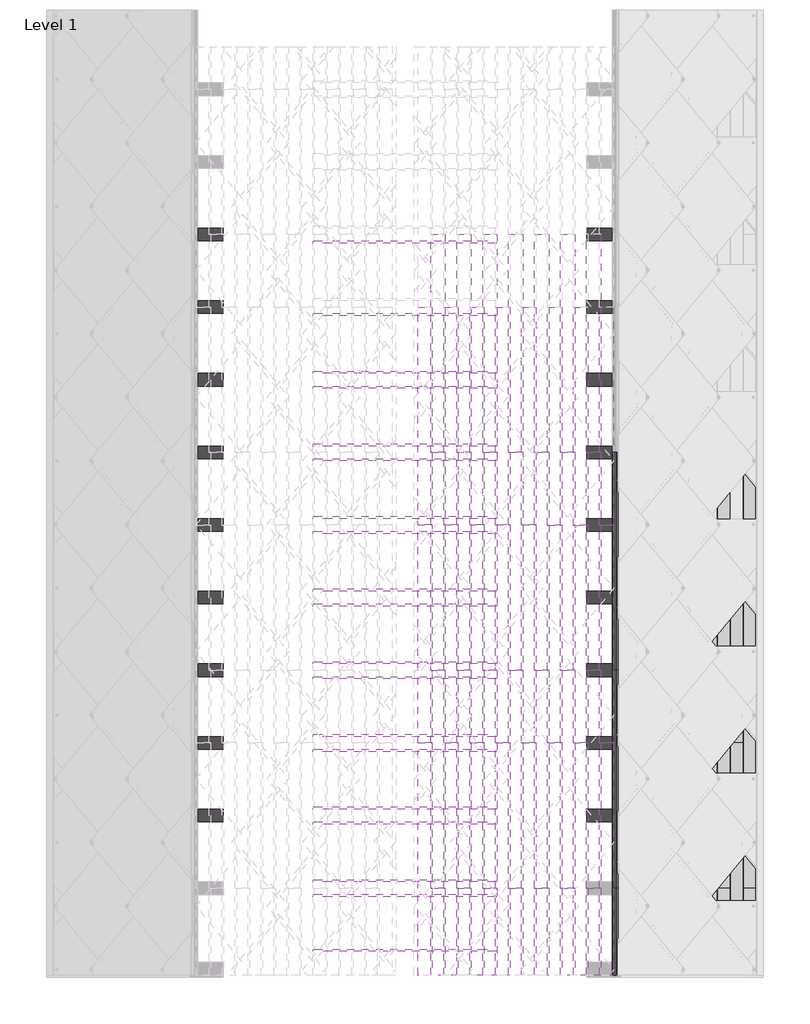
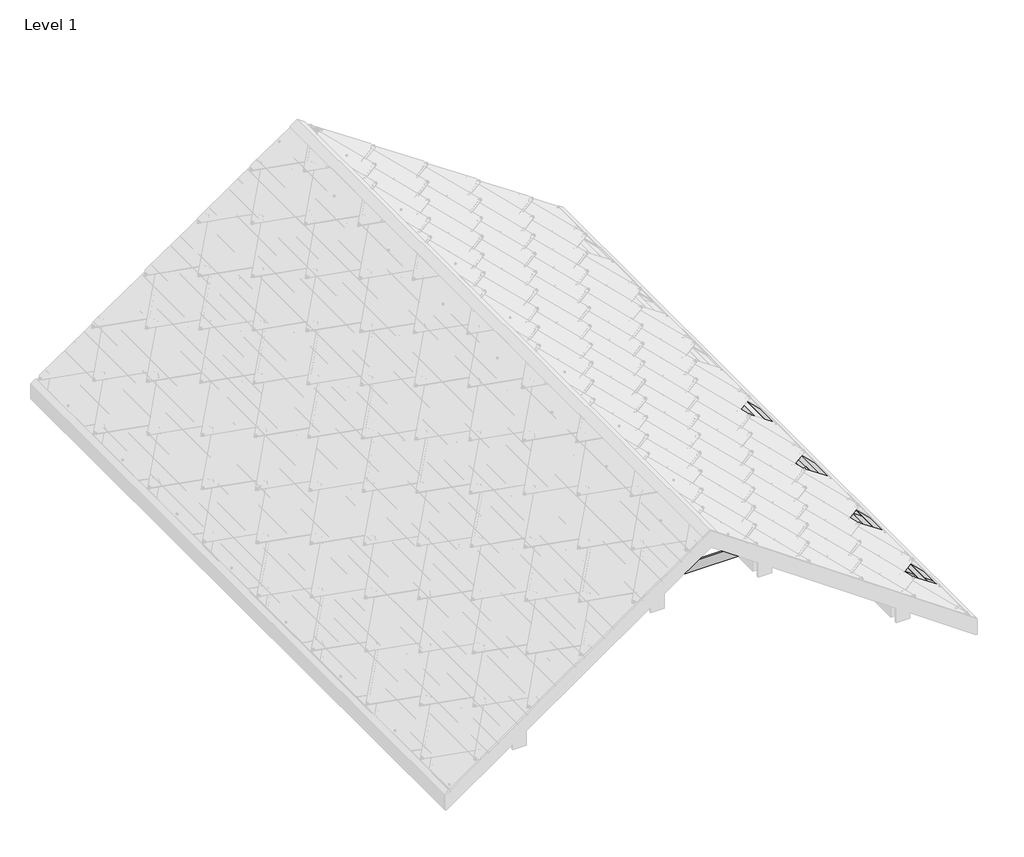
# One storey, part 2 of 6: 110 beams.
"""IFC4 building model written with IfcOpenShell, lengths in millimetres."""

import ifcopenshell
import ifcopenshell.guid

model = None  # the IFC model being written
_history = None  # IfcOwnerHistory: only IFC2X3 demands one
_inside = {}  # id of a spatial element -> (the spatial element, [elements in it])
_under = {}  # id of a project, library or spatial element -> (it, [spatial elements below it])
_declared = {}  # id of a project -> (the project, [libraries it declares])
_typed = {}  # id of a type object -> (the type object, [elements of that type])
_made_of = {}  # id of a material, layer set ... -> (it, [elements and type objects made of it])


def new_model(schema):
    """Start an empty IFC model of exactly this schema.

    Asked for "IFC4X3", IfcOpenShell would pick the latest addendum, in which some entities
    have other attributes; the version numbers below select the first issue.
    IFC2X3 requires an IfcOwnerHistory on every rooted entity: one is made here for all.
    """
    global model, _history
    if schema == "IFC4X3":
        model = ifcopenshell.file(schema_version=(4, 3, 0, 0))
    else:
        model = ifcopenshell.file(schema=schema)
    _inside.clear()
    _under.clear()
    _declared.clear()
    _typed.clear()
    _made_of.clear()
    _history = None
    if model.schema == "IFC2X3":
        org = make("IfcOrganization", Name="unknown")
        user = make(
            "IfcPersonAndOrganization",
            ThePerson=make("IfcPerson", FamilyName="unknown"),
            TheOrganization=org,
        )
        app = make(
            "IfcApplication",
            ApplicationDeveloper=org,
            Version="unknown",
            ApplicationFullName="unknown",
            ApplicationIdentifier="unknown",
        )
        _history = make(
            "IfcOwnerHistory",
            OwningUser=user,
            OwningApplication=app,
            ChangeAction="ADDED",
            CreationDate=0,
        )
    return model


def make(cls, **values):
    """One entity of the class cls with the attributes given. An attribute that is None is left unset."""
    return model.create_entity(
        cls, **{name: value for name, value in values.items() if value is not None}
    )


def rooted(cls, **values):
    """An entity with a GlobalId (a new one), such as an element, a storey or a relation."""
    return make(cls, GlobalId=ifcopenshell.guid.new(), OwnerHistory=_history, **values)


def si_unit(unit_type, name, prefix=None):
    """IfcSIUnit, for example si_unit("LENGTHUNIT", "METRE", prefix="MILLI")."""
    return make("IfcSIUnit", UnitType=unit_type, Prefix=prefix, Name=name)


def assignment(units):
    """IfcUnitAssignment: the units of a project."""
    return None if units is None else make("IfcUnitAssignment", Units=units)


def point(xyz):
    """IfcCartesianPoint."""
    return None if xyz is None else make("IfcCartesianPoint", Coordinates=xyz)


def direction(xyz):
    """IfcDirection."""
    return None if xyz is None else make("IfcDirection", DirectionRatios=xyz)


def frame(location, z_axis=None, x_axis=None):
    """IfcAxis2Placement3D, a coordinate frame: its origin and axes. An axis left out is left unset."""
    return make(
        "IfcAxis2Placement3D",
        Location=point(location),
        Axis=direction(z_axis),
        RefDirection=direction(x_axis),
    )


def origin():
    """The frame at (0, 0, 0) with its axes left unset."""
    return frame((0.0, 0.0, 0.0))


def place(relative_to, where):
    """IfcLocalPlacement: puts the frame where relative to a parent placement (None: the world)."""
    return make(
        "IfcLocalPlacement", PlacementRelTo=relative_to, RelativePlacement=where
    )


def context(
    kind, dimensions, precision=None, world=None, true_north=None, identifier=None
):
    """IfcGeometricRepresentationContext, for example the 3D "Model" context."""
    return make(
        "IfcGeometricRepresentationContext",
        ContextIdentifier=identifier,
        ContextType=kind,
        CoordinateSpaceDimension=dimensions,
        Precision=precision,
        WorldCoordinateSystem=world,
        TrueNorth=true_north,
    )


def project(units=None, contexts=None):
    """IfcProject with its units and contexts."""
    return rooted(
        "IfcProject",
        Name="project",
        RepresentationContexts=contexts,
        UnitsInContext=assignment(units),
    )


def spatial(cls, under=None, at=None, **own):
    """A site, building, storey or space (cls), placed at a placement, below another one or the project."""
    s = rooted(cls, ObjectPlacement=at, **own)
    if under is not None:
        _under.setdefault(under.id(), (under, []))[1].append(s)
    return s


def polyline(points):
    """IfcPolyline through the points."""
    return make("IfcPolyline", Points=[point(p) for p in points])


def outline(outer, holes=None, kind="AREA"):
    """IfcArbitraryClosedProfileDef: a profile drawn as a closed curve; with holes, ...WithVoids."""
    if holes is None:
        return make("IfcArbitraryClosedProfileDef", ProfileType=kind, OuterCurve=outer)
    return make(
        "IfcArbitraryProfileDefWithVoids",
        ProfileType=kind,
        OuterCurve=outer,
        InnerCurves=holes,
    )


def extrude(swept, where, along, depth):
    """IfcExtrudedAreaSolid: the profile swept, set in the frame where, extruded along a direction by depth."""
    return make(
        "IfcExtrudedAreaSolid",
        SweptArea=swept,
        Position=where,
        ExtrudedDirection=direction(along),
        Depth=depth,
    )


def shape(context_of_items, identifier, shape_type, items):
    """IfcShapeRepresentation: the items that make up one representation, for example the "Body"."""
    return make(
        "IfcShapeRepresentation",
        ContextOfItems=context_of_items,
        RepresentationIdentifier=identifier,
        RepresentationType=shape_type,
        Items=items,
    )


def source(mapping_origin, context_of_items, identifier, shape_type, items):
    """IfcRepresentationMap: a shape defined once, which mapped items show again and again."""
    return make(
        "IfcRepresentationMap",
        MappingOrigin=mapping_origin,
        MappedRepresentation=shape(context_of_items, identifier, shape_type, items),
    )


def transform(
    local_origin,
    x_axis=None,
    y_axis=None,
    z_axis=None,
    scale=None,
    scale2=None,
    scale3=None,
    uniform=True,
):
    """IfcCartesianTransformationOperator3D, or its non-uniform kind. x_axis, y_axis, z_axis: its Axis1, 2, 3."""
    if uniform:
        return make(
            "IfcCartesianTransformationOperator3D",
            Axis1=direction(x_axis),
            Axis2=direction(y_axis),
            LocalOrigin=point(local_origin),
            Scale=scale,
            Axis3=direction(z_axis),
        )
    return make(
        "IfcCartesianTransformationOperator3DnonUniform",
        Axis1=direction(x_axis),
        Axis2=direction(y_axis),
        LocalOrigin=point(local_origin),
        Scale=scale,
        Axis3=direction(z_axis),
        Scale2=scale2,
        Scale3=scale3,
    )


def mapped(mapping_source, mapping_target):
    """IfcMappedItem: shows the shape of a source again, moved by a transform."""
    return make(
        "IfcMappedItem", MappingSource=mapping_source, MappingTarget=mapping_target
    )


def made_of(thing, what):
    """Note that an element or type object is made of a material, layer set ...; save() writes the relation."""
    if what is not None:
        _made_of.setdefault(what.id(), (what, []))[1].append(thing)
    return thing


def element(
    cls,
    number,
    at=None,
    inside=None,
    cuts=None,
    type_object=None,
    material=None,
    context=None,
    identifier="Body",
    shape_type=None,
    held_by="IfcProductDefinitionShape",
    body=None,
    shapes=None,
    **own,
):
    """One element of the class cls, such as IfcWall. Its Tag is "e" and its number.

    at: its placement. inside: the storey or other place that contains it. cuts: it is an
    opening in that element (IfcRelVoidsElement). A single representation is given by context,
    identifier, shape_type and body (its items); several are given by shapes. held_by: the class
    of the entity that holds the representations. save() writes the other relations.
    """
    e = rooted(cls, Tag="e%d" % number, ObjectPlacement=at, **own)
    if body is not None:
        shapes = [shape(context, identifier, shape_type, body)]
    if shapes is not None:
        e.Representation = make(held_by, Representations=shapes)
    if inside is not None:
        _inside.setdefault(inside.id(), (inside, []))[1].append(e)
    if cuts is not None:
        rooted(
            "IfcRelVoidsElement", RelatingBuildingElement=cuts, RelatedOpeningElement=e
        )
    if type_object is not None:
        _typed.setdefault(type_object.id(), (type_object, []))[1].append(e)
    return made_of(e, material)


def aggregate(whole, parts):
    """IfcRelAggregates: a whole, such as a stair, and the parts it consists of."""
    return rooted("IfcRelAggregates", RelatingObject=whole, RelatedObjects=parts)


def save(model, path):
    """Write the relations noted so far, then the file.

    IfcRelAggregates (storeys below a building ...), IfcRelContainedInSpatialStructure (elements
    in a storey), IfcRelDefinesByType, IfcRelAssociatesMaterial and IfcRelDeclares: one each for
    every whole, place, type object, material and project.
    """
    for whole, parts in _under.values():
        aggregate(whole, parts)
    for where, things in _inside.values():
        rooted(
            "IfcRelContainedInSpatialStructure",
            RelatedElements=things,
            RelatingStructure=where,
        )
    for kind, things in _typed.values():
        rooted("IfcRelDefinesByType", RelatedObjects=things, RelatingType=kind)
    for what, things in _made_of.values():
        rooted("IfcRelAssociatesMaterial", RelatedObjects=things, RelatingMaterial=what)
    for by, libraries in _declared.values():
        rooted("IfcRelDeclares", RelatingContext=by, RelatedDefinitions=libraries)
    model.write(path)


def structural_framing_1_structural_framing_1_4f4e03de(model_context):
    return source(origin(), model_context, "Body", "SweptSolid", [
        extrude(outline(polyline([(2800.0, 1206.7789073), (51.1319528, -2719.0115151), (-144.1919814, -2719.0115151), (542.0114061, -1739.0115151), (656.0155568, -1739.0115151), (656.0155568, -1576.1967145), (1975.9524969, 308.8685956), (2089.9566477, 308.8685956), (2089.9566477, 471.6833963), (2604.6760658, 1206.7789073), (2089.9566477, 1941.8744183), (2089.9566477, 2104.6892189), (1975.9524969, 2104.6892189), (656.0155568, 3989.754529), (656.0155568, 4152.5693297), (542.0114061, 4152.5693297), (-144.1919814, 5132.5693297), (51.1319528, 5132.5693297), (2800.0, 1206.7789073)])), frame((0.0, 3785.5508021, 0.0), z_axis=(0.0, 1.0, 0.0), x_axis=(0.0, 0.0, 1.0)), (0.0, 0.0, 1.0), 140.0),
    ])


def structural_framing_161_structural_framing_15_e03e88da(model_context):
    return source(origin(), model_context, "Body", "SweptSolid", [
        extrude(outline(polyline([(0.0, -174.3446795), (0.0, 0.0), (2400.0, 0.0), (2400.0, -174.3446795), (0.0, -174.3446795)])), frame((1349.5937079, 3995.5508021, 2700.0), z_axis=(0.5735764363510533, 0.0, 0.8191520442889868), x_axis=(0.0, -1.0, 0.0)), (0.0, 0.0, 1.0), 25.0),
    ])


def structural_framing_163_structural_framing_15_fd44f6a2(model_context):
    return source(origin(), model_context, "Body", "SweptSolid", [
        extrude(outline(polyline([(0.0, -174.3446795), (0.0, 0.0), (2558.4556079, 0.0), (2558.4556079, -174.3446795), (0.0, -174.3446795)])), frame((1349.5937079, 3995.5508021, 2700.0), z_axis=(0.5735764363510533, 0.0, 0.8191520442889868), x_axis=(0.0, -1.0, 0.0)), (0.0, 0.0, 1.0), 25.0),
    ])


def structural_framing_156_structural_framing_15_8572bb24(model_context):
    return source(origin(), model_context, "Body", "SweptSolid", [
        extrude(outline(polyline([(0.0, -174.3446795), (0.0, 0.0), (2400.0, 0.0), (2400.0, -174.3446795), (0.0, -174.3446795)])), frame((1349.5937079, 3925.5508021, 2700.0), z_axis=(0.5735764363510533, 0.0, 0.8191520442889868), x_axis=(0.0, -1.0, 0.0)), (0.0, 0.0, 1.0), 25.0),
    ])


def structural_framing_159_structural_framing_15_e730e61d(model_context):
    return source(origin(), model_context, "Body", "SweptSolid", [
        extrude(outline(polyline([(0.0, -174.3446795), (0.0, 0.0), (958.4556079, 0.0), (958.4556079, -174.3446795), (0.0, -174.3446795)])), frame((1349.5937079, 3925.5508021, 2700.0), z_axis=(0.5735764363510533, 0.0, 0.8191520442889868), x_axis=(0.0, -1.0, 0.0)), (0.0, 0.0, 1.0), 25.0),
    ])


def structural_framing_296_structural_framing_296_04115515(model_context):
    return source(origin(), model_context, "Body", "SweptSolid", [
        extrude(outline(polyline([(2089.9566477, 2220.8259056), (2239.9566477, 2006.6037045), (2239.9566477, 406.95411), (2089.9566477, 192.731909), (2089.9566477, 2220.8259056)])), frame((0.0, 3760.5508021, 0.0), z_axis=(0.0, 1.0, 0.0), x_axis=(0.0, 0.0, 1.0)), (0.0, 0.0, 1.0), 25.0),
    ])


def structural_framing_298_structural_framing_296_1c13a3da(model_context):
    return source(origin(), model_context, "Body", "SweptSolid", [
        extrude(outline(polyline([(2089.9566477, 2220.8259056), (2239.9566477, 2006.6037045), (2239.9566477, 406.95411), (2089.9566477, 192.731909), (2089.9566477, 2220.8259056)])), frame((0.0, 2325.5508021, 0.0), z_axis=(0.0, 1.0, 0.0), x_axis=(0.0, 0.0, 1.0)), (0.0, 0.0, 1.0), 25.0),
    ])


model = new_model("IFC4")

# Units and contexts
model_context = context("Model", 3, world=origin())
ifc_project = project(units=[si_unit("LENGTHUNIT", "METRE", prefix="MILLI")], contexts=[model_context])

# Site, building, storey
site = spatial("IfcSite", under=ifc_project)
building = spatial("IfcBuilding", under=site)
storey = spatial("IfcBuildingStorey", under=building, Name="Level 1", Elevation=0.0)

# Beams
placement = place(None, origin())
structural_framing_1_structural_framing_1_shape = structural_framing_1_structural_framing_1_4f4e03de(model_context)
element("IfcBeam", 1, ObjectType="Structural Framing 10 : Structural Framing 1", at=placement, inside=storey, context=model_context, shape_type="MappedRepresentation", body=[
    mapped(structural_framing_1_structural_framing_1_shape, transform((0.0, -7200.0, 0.0), x_axis=(1.0, 0.0, 0.0), y_axis=(0.0, 1.0, 0.0), z_axis=(0.0, 0.0, 1.0))),
])
element("IfcBeam", 2, ObjectType="Structural Framing 11 : Structural Framing 1", at=placement, inside=storey, context=model_context, shape_type="MappedRepresentation", body=[
    mapped(structural_framing_1_structural_framing_1_shape, transform((0.0, -8000.0, 0.0), x_axis=(1.0, 0.0, 0.0), y_axis=(0.0, 1.0, 0.0), z_axis=(0.0, 0.0, 1.0))),
])
element("IfcBeam", 3, ObjectType="Structural Framing 12 : Structural Framing 1", at=placement, inside=storey, context=model_context, shape_type="MappedRepresentation", body=[
    mapped(structural_framing_1_structural_framing_1_shape, transform((0.0, -8800.0, 0.0), x_axis=(1.0, 0.0, 0.0), y_axis=(0.0, 1.0, 0.0), z_axis=(0.0, 0.0, 1.0))),
])
structural_framing_161_structural_framing_15_shape = structural_framing_161_structural_framing_15_e03e88da(model_context)
element("IfcBeam", 4, ObjectType="Structural Framing 161 : Structural Framing 15", at=placement, inside=storey, context=model_context, shape_type="MappedRepresentation", body=[
    mapped(structural_framing_161_structural_framing_15_shape, transform((142.8148007, -3340.0, -100.0), x_axis=(1.0, 0.0, 0.0), y_axis=(0.0, 1.0, 0.0), z_axis=(0.0, 0.0, 1.0))),
])
element("IfcBeam", 5, ObjectType="Structural Framing 162 : Structural Framing 15", at=placement, inside=storey, context=model_context, shape_type="MappedRepresentation", body=[
    mapped(structural_framing_161_structural_framing_15_shape, transform((142.8148007, -5740.0, -100.0), x_axis=(1.0, 0.0, 0.0), y_axis=(0.0, 1.0, 0.0), z_axis=(0.0, 0.0, 1.0))),
])
structural_framing_163_structural_framing_15_shape = structural_framing_163_structural_framing_15_fd44f6a2(model_context)
element("IfcBeam", 6, ObjectType="Structural Framing 163 : Structural Framing 15", at=placement, inside=storey, context=model_context, shape_type="MappedRepresentation", body=[
    mapped(structural_framing_163_structural_framing_15_shape, transform((142.8148007, -8140.0, -100.0), x_axis=(1.0, 0.0, 0.0), y_axis=(0.0, 1.0, 0.0), z_axis=(0.0, 0.0, 1.0))),
])
structural_framing_156_structural_framing_15_shape = structural_framing_156_structural_framing_15_8572bb24(model_context)
element("IfcBeam", 7, ObjectType="Structural Framing 166 : Structural Framing 15", at=placement, inside=storey, context=model_context, shape_type="MappedRepresentation", body=[
    mapped(structural_framing_156_structural_framing_15_shape, transform((285.6296013, -2470.0, -200.0), x_axis=(1.0, 0.0, 0.0), y_axis=(0.0, 1.0, 0.0), z_axis=(0.0, 0.0, 1.0))),
])
element("IfcBeam", 8, ObjectType="Structural Framing 167 : Structural Framing 15", at=placement, inside=storey, context=model_context, shape_type="MappedRepresentation", body=[
    mapped(structural_framing_156_structural_framing_15_shape, transform((285.6296013, -4870.0, -200.0), x_axis=(1.0, 0.0, 0.0), y_axis=(0.0, 1.0, 0.0), z_axis=(0.0, 0.0, 1.0))),
])
element("IfcBeam", 9, ObjectType="Structural Framing 168 : Structural Framing 15", at=placement, inside=storey, context=model_context, shape_type="MappedRepresentation", body=[
    mapped(structural_framing_156_structural_framing_15_shape, transform((285.6296013, -7270.0, -200.0), x_axis=(1.0, 0.0, 0.0), y_axis=(0.0, 1.0, 0.0), z_axis=(0.0, 0.0, 1.0))),
])
structural_framing_159_structural_framing_15_shape = structural_framing_159_structural_framing_15_e730e61d(model_context)
element("IfcBeam", 10, ObjectType="Structural Framing 169 : Structural Framing 15", at=placement, inside=storey, context=model_context, shape_type="MappedRepresentation", body=[
    mapped(structural_framing_159_structural_framing_15_shape, transform((285.6296013, -9670.0, -200.0), x_axis=(1.0, 0.0, 0.0), y_axis=(0.0, 1.0, 0.0), z_axis=(0.0, 0.0, 1.0))),
])
element("IfcBeam", 11, ObjectType="Structural Framing 171 : Structural Framing 15", at=placement, inside=storey, context=model_context, shape_type="MappedRepresentation", body=[
    mapped(structural_framing_161_structural_framing_15_shape, transform((428.444402, -3340.0, -300.0), x_axis=(1.0, 0.0, 0.0), y_axis=(0.0, 1.0, 0.0), z_axis=(0.0, 0.0, 1.0))),
])
element("IfcBeam", 12, ObjectType="Structural Framing 172 : Structural Framing 15", at=placement, inside=storey, context=model_context, shape_type="MappedRepresentation", body=[
    mapped(structural_framing_161_structural_framing_15_shape, transform((428.444402, -5740.0, -300.0), x_axis=(1.0, 0.0, 0.0), y_axis=(0.0, 1.0, 0.0), z_axis=(0.0, 0.0, 1.0))),
])
element("IfcBeam", 13, ObjectType="Structural Framing 173 : Structural Framing 15", at=placement, inside=storey, context=model_context, shape_type="MappedRepresentation", body=[
    mapped(structural_framing_163_structural_framing_15_shape, transform((428.444402, -8140.0, -300.0), x_axis=(1.0, 0.0, 0.0), y_axis=(0.0, 1.0, 0.0), z_axis=(0.0, 0.0, 1.0))),
])
element("IfcBeam", 14, ObjectType="Structural Framing 176 : Structural Framing 15", at=placement, inside=storey, context=model_context, shape_type="MappedRepresentation", body=[
    mapped(structural_framing_156_structural_framing_15_shape, transform((571.2592027, -2470.0, -400.0), x_axis=(1.0, 0.0, 0.0), y_axis=(0.0, 1.0, 0.0), z_axis=(0.0, 0.0, 1.0))),
])
element("IfcBeam", 15, ObjectType="Structural Framing 177 : Structural Framing 15", at=placement, inside=storey, context=model_context, shape_type="MappedRepresentation", body=[
    mapped(structural_framing_156_structural_framing_15_shape, transform((571.2592027, -4870.0, -400.0), x_axis=(1.0, 0.0, 0.0), y_axis=(0.0, 1.0, 0.0), z_axis=(0.0, 0.0, 1.0))),
])
element("IfcBeam", 16, ObjectType="Structural Framing 178 : Structural Framing 15", at=placement, inside=storey, context=model_context, shape_type="MappedRepresentation", body=[
    mapped(structural_framing_156_structural_framing_15_shape, transform((571.2592027, -7270.0, -400.0), x_axis=(1.0, 0.0, 0.0), y_axis=(0.0, 1.0, 0.0), z_axis=(0.0, 0.0, 1.0))),
])
element("IfcBeam", 17, ObjectType="Structural Framing 179 : Structural Framing 15", at=placement, inside=storey, context=model_context, shape_type="MappedRepresentation", body=[
    mapped(structural_framing_159_structural_framing_15_shape, transform((571.2592027, -9670.0, -400.0), x_axis=(1.0, 0.0, 0.0), y_axis=(0.0, 1.0, 0.0), z_axis=(0.0, 0.0, 1.0))),
])
element("IfcBeam", 18, ObjectType="Structural Framing 181 : Structural Framing 15", at=placement, inside=storey, context=model_context, shape_type="MappedRepresentation", body=[
    mapped(structural_framing_161_structural_framing_15_shape, transform((714.0740034, -3340.0, -500.0), x_axis=(1.0, 0.0, 0.0), y_axis=(0.0, 1.0, 0.0), z_axis=(0.0, 0.0, 1.0))),
])
element("IfcBeam", 19, ObjectType="Structural Framing 182 : Structural Framing 15", at=placement, inside=storey, context=model_context, shape_type="MappedRepresentation", body=[
    mapped(structural_framing_161_structural_framing_15_shape, transform((714.0740034, -5740.0, -500.0), x_axis=(1.0, 0.0, 0.0), y_axis=(0.0, 1.0, 0.0), z_axis=(0.0, 0.0, 1.0))),
])
element("IfcBeam", 20, ObjectType="Structural Framing 183 : Structural Framing 15", at=placement, inside=storey, context=model_context, shape_type="MappedRepresentation", body=[
    mapped(structural_framing_163_structural_framing_15_shape, transform((714.0740034, -8140.0, -500.0), x_axis=(1.0, 0.0, 0.0), y_axis=(0.0, 1.0, 0.0), z_axis=(0.0, 0.0, 1.0))),
])
element("IfcBeam", 21, ObjectType="Structural Framing 186 : Structural Framing 15", at=placement, inside=storey, context=model_context, shape_type="MappedRepresentation", body=[
    mapped(structural_framing_156_structural_framing_15_shape, transform((856.888804, -2470.0, -600.0), x_axis=(1.0, 0.0, 0.0), y_axis=(0.0, 1.0, 0.0), z_axis=(0.0, 0.0, 1.0))),
])
element("IfcBeam", 22, ObjectType="Structural Framing 187 : Structural Framing 15", at=placement, inside=storey, context=model_context, shape_type="MappedRepresentation", body=[
    mapped(structural_framing_156_structural_framing_15_shape, transform((856.888804, -4870.0, -600.0), x_axis=(1.0, 0.0, 0.0), y_axis=(0.0, 1.0, 0.0), z_axis=(0.0, 0.0, 1.0))),
])
element("IfcBeam", 23, ObjectType="Structural Framing 188 : Structural Framing 15", at=placement, inside=storey, context=model_context, shape_type="MappedRepresentation", body=[
    mapped(structural_framing_156_structural_framing_15_shape, transform((856.888804, -7270.0, -600.0), x_axis=(1.0, 0.0, 0.0), y_axis=(0.0, 1.0, 0.0), z_axis=(0.0, 0.0, 1.0))),
])
element("IfcBeam", 24, ObjectType="Structural Framing 189 : Structural Framing 15", at=placement, inside=storey, context=model_context, shape_type="MappedRepresentation", body=[
    mapped(structural_framing_159_structural_framing_15_shape, transform((856.888804, -9670.0, -600.0), x_axis=(1.0, 0.0, 0.0), y_axis=(0.0, 1.0, 0.0), z_axis=(0.0, 0.0, 1.0))),
])
element("IfcBeam", 25, ObjectType="Structural Framing 191 : Structural Framing 15", at=placement, inside=storey, context=model_context, shape_type="MappedRepresentation", body=[
    mapped(structural_framing_161_structural_framing_15_shape, transform((999.7036047, -3340.0, -700.0), x_axis=(1.0, 0.0, 0.0), y_axis=(0.0, 1.0, 0.0), z_axis=(0.0, 0.0, 1.0))),
])
element("IfcBeam", 26, ObjectType="Structural Framing 192 : Structural Framing 15", at=placement, inside=storey, context=model_context, shape_type="MappedRepresentation", body=[
    mapped(structural_framing_161_structural_framing_15_shape, transform((999.7036047, -5740.0, -700.0), x_axis=(1.0, 0.0, 0.0), y_axis=(0.0, 1.0, 0.0), z_axis=(0.0, 0.0, 1.0))),
])
element("IfcBeam", 27, ObjectType="Structural Framing 193 : Structural Framing 15", at=placement, inside=storey, context=model_context, shape_type="MappedRepresentation", body=[
    mapped(structural_framing_163_structural_framing_15_shape, transform((999.7036047, -8140.0, -700.0), x_axis=(1.0, 0.0, 0.0), y_axis=(0.0, 1.0, 0.0), z_axis=(0.0, 0.0, 1.0))),
])
element("IfcBeam", 28, ObjectType="Structural Framing 196 : Structural Framing 15", at=placement, inside=storey, context=model_context, shape_type="MappedRepresentation", body=[
    mapped(structural_framing_156_structural_framing_15_shape, transform((1142.5184054, -2470.0, -800.0), x_axis=(1.0, 0.0, 0.0), y_axis=(0.0, 1.0, 0.0), z_axis=(0.0, 0.0, 1.0))),
])
element("IfcBeam", 29, ObjectType="Structural Framing 197 : Structural Framing 15", at=placement, inside=storey, context=model_context, shape_type="MappedRepresentation", body=[
    mapped(structural_framing_156_structural_framing_15_shape, transform((1142.5184054, -4870.0, -800.0), x_axis=(1.0, 0.0, 0.0), y_axis=(0.0, 1.0, 0.0), z_axis=(0.0, 0.0, 1.0))),
])
element("IfcBeam", 30, ObjectType="Structural Framing 198 : Structural Framing 15", at=placement, inside=storey, context=model_context, shape_type="MappedRepresentation", body=[
    mapped(structural_framing_156_structural_framing_15_shape, transform((1142.5184054, -7270.0, -800.0), x_axis=(1.0, 0.0, 0.0), y_axis=(0.0, 1.0, 0.0), z_axis=(0.0, 0.0, 1.0))),
])
element("IfcBeam", 31, ObjectType="Structural Framing 199 : Structural Framing 15", at=placement, inside=storey, context=model_context, shape_type="MappedRepresentation", body=[
    mapped(structural_framing_159_structural_framing_15_shape, transform((1142.5184054, -9670.0, -800.0), x_axis=(1.0, 0.0, 0.0), y_axis=(0.0, 1.0, 0.0), z_axis=(0.0, 0.0, 1.0))),
])
element("IfcBeam", 32, ObjectType="Structural Framing 201 : Structural Framing 15", at=placement, inside=storey, context=model_context, shape_type="MappedRepresentation", body=[
    mapped(structural_framing_161_structural_framing_15_shape, transform((1285.3332061, -3340.0, -900.0), x_axis=(1.0, 0.0, 0.0), y_axis=(0.0, 1.0, 0.0), z_axis=(0.0, 0.0, 1.0))),
])
element("IfcBeam", 33, ObjectType="Structural Framing 202 : Structural Framing 15", at=placement, inside=storey, context=model_context, shape_type="MappedRepresentation", body=[
    mapped(structural_framing_161_structural_framing_15_shape, transform((1285.3332061, -5740.0, -900.0), x_axis=(1.0, 0.0, 0.0), y_axis=(0.0, 1.0, 0.0), z_axis=(0.0, 0.0, 1.0))),
])
element("IfcBeam", 34, ObjectType="Structural Framing 203 : Structural Framing 15", at=placement, inside=storey, context=model_context, shape_type="MappedRepresentation", body=[
    mapped(structural_framing_163_structural_framing_15_shape, transform((1285.3332061, -8140.0, -900.0), x_axis=(1.0, 0.0, 0.0), y_axis=(0.0, 1.0, 0.0), z_axis=(0.0, 0.0, 1.0))),
])
element("IfcBeam", 35, ObjectType="Structural Framing 206 : Structural Framing 15", at=placement, inside=storey, context=model_context, shape_type="MappedRepresentation", body=[
    mapped(structural_framing_156_structural_framing_15_shape, transform((1428.1480067, -2470.0, -1000.0), x_axis=(1.0, 0.0, 0.0), y_axis=(0.0, 1.0, 0.0), z_axis=(0.0, 0.0, 1.0))),
])
element("IfcBeam", 36, ObjectType="Structural Framing 207 : Structural Framing 15", at=placement, inside=storey, context=model_context, shape_type="MappedRepresentation", body=[
    mapped(structural_framing_156_structural_framing_15_shape, transform((1428.1480067, -4870.0, -1000.0), x_axis=(1.0, 0.0, 0.0), y_axis=(0.0, 1.0, 0.0), z_axis=(0.0, 0.0, 1.0))),
])
element("IfcBeam", 37, ObjectType="Structural Framing 208 : Structural Framing 15", at=placement, inside=storey, context=model_context, shape_type="MappedRepresentation", body=[
    mapped(structural_framing_156_structural_framing_15_shape, transform((1428.1480067, -7270.0, -1000.0), x_axis=(1.0, 0.0, 0.0), y_axis=(0.0, 1.0, 0.0), z_axis=(0.0, 0.0, 1.0))),
])
element("IfcBeam", 38, ObjectType="Structural Framing 209 : Structural Framing 15", at=placement, inside=storey, context=model_context, shape_type="MappedRepresentation", body=[
    mapped(structural_framing_159_structural_framing_15_shape, transform((1428.1480067, -9670.0, -1000.0), x_axis=(1.0, 0.0, 0.0), y_axis=(0.0, 1.0, 0.0), z_axis=(0.0, 0.0, 1.0))),
])
element("IfcBeam", 39, ObjectType="Structural Framing 211 : Structural Framing 15", at=placement, inside=storey, context=model_context, shape_type="MappedRepresentation", body=[
    mapped(structural_framing_161_structural_framing_15_shape, transform((1570.9628074, -3340.0, -1100.0), x_axis=(1.0, 0.0, 0.0), y_axis=(0.0, 1.0, 0.0), z_axis=(0.0, 0.0, 1.0))),
])
element("IfcBeam", 40, ObjectType="Structural Framing 212 : Structural Framing 15", at=placement, inside=storey, context=model_context, shape_type="MappedRepresentation", body=[
    mapped(structural_framing_161_structural_framing_15_shape, transform((1570.9628074, -5740.0, -1100.0), x_axis=(1.0, 0.0, 0.0), y_axis=(0.0, 1.0, 0.0), z_axis=(0.0, 0.0, 1.0))),
])
element("IfcBeam", 41, ObjectType="Structural Framing 213 : Structural Framing 15", at=placement, inside=storey, context=model_context, shape_type="MappedRepresentation", body=[
    mapped(structural_framing_163_structural_framing_15_shape, transform((1570.9628074, -8140.0, -1100.0), x_axis=(1.0, 0.0, 0.0), y_axis=(0.0, 1.0, 0.0), z_axis=(0.0, 0.0, 1.0))),
])
element("IfcBeam", 42, ObjectType="Structural Framing 216 : Structural Framing 15", at=placement, inside=storey, context=model_context, shape_type="MappedRepresentation", body=[
    mapped(structural_framing_156_structural_framing_15_shape, transform((1713.7776081, -2470.0, -1200.0), x_axis=(1.0, 0.0, 0.0), y_axis=(0.0, 1.0, 0.0), z_axis=(0.0, 0.0, 1.0))),
])
element("IfcBeam", 43, ObjectType="Structural Framing 217 : Structural Framing 15", at=placement, inside=storey, context=model_context, shape_type="MappedRepresentation", body=[
    mapped(structural_framing_156_structural_framing_15_shape, transform((1713.7776081, -4870.0, -1200.0), x_axis=(1.0, 0.0, 0.0), y_axis=(0.0, 1.0, 0.0), z_axis=(0.0, 0.0, 1.0))),
])
element("IfcBeam", 44, ObjectType="Structural Framing 218 : Structural Framing 15", at=placement, inside=storey, context=model_context, shape_type="MappedRepresentation", body=[
    mapped(structural_framing_156_structural_framing_15_shape, transform((1713.7776081, -7270.0, -1200.0), x_axis=(1.0, 0.0, 0.0), y_axis=(0.0, 1.0, 0.0), z_axis=(0.0, 0.0, 1.0))),
])
element("IfcBeam", 45, ObjectType="Structural Framing 219 : Structural Framing 15", at=placement, inside=storey, context=model_context, shape_type="MappedRepresentation", body=[
    mapped(structural_framing_159_structural_framing_15_shape, transform((1713.7776081, -9670.0, -1200.0), x_axis=(1.0, 0.0, 0.0), y_axis=(0.0, 1.0, 0.0), z_axis=(0.0, 0.0, 1.0))),
])
element("IfcBeam", 46, ObjectType="Structural Framing 221 : Structural Framing 15", at=placement, inside=storey, context=model_context, shape_type="MappedRepresentation", body=[
    mapped(structural_framing_161_structural_framing_15_shape, transform((1856.5924088, -3340.0, -1300.0), x_axis=(1.0, 0.0, 0.0), y_axis=(0.0, 1.0, 0.0), z_axis=(0.0, 0.0, 1.0))),
])
element("IfcBeam", 47, ObjectType="Structural Framing 222 : Structural Framing 15", at=placement, inside=storey, context=model_context, shape_type="MappedRepresentation", body=[
    mapped(structural_framing_161_structural_framing_15_shape, transform((1856.5924088, -5740.0, -1300.0), x_axis=(1.0, 0.0, 0.0), y_axis=(0.0, 1.0, 0.0), z_axis=(0.0, 0.0, 1.0))),
])
element("IfcBeam", 48, ObjectType="Structural Framing 223 : Structural Framing 15", at=placement, inside=storey, context=model_context, shape_type="MappedRepresentation", body=[
    mapped(structural_framing_163_structural_framing_15_shape, transform((1856.5924088, -8140.0, -1300.0), x_axis=(1.0, 0.0, 0.0), y_axis=(0.0, 1.0, 0.0), z_axis=(0.0, 0.0, 1.0))),
])
element("IfcBeam", 49, ObjectType="Structural Framing 226 : Structural Framing 15", at=placement, inside=storey, context=model_context, shape_type="MappedRepresentation", body=[
    mapped(structural_framing_156_structural_framing_15_shape, transform((1999.4072094, -2470.0, -1400.0), x_axis=(1.0, 0.0, 0.0), y_axis=(0.0, 1.0, 0.0), z_axis=(0.0, 0.0, 1.0))),
])
element("IfcBeam", 50, ObjectType="Structural Framing 227 : Structural Framing 15", at=placement, inside=storey, context=model_context, shape_type="MappedRepresentation", body=[
    mapped(structural_framing_156_structural_framing_15_shape, transform((1999.4072094, -4870.0, -1400.0), x_axis=(1.0, 0.0, 0.0), y_axis=(0.0, 1.0, 0.0), z_axis=(0.0, 0.0, 1.0))),
])
element("IfcBeam", 51, ObjectType="Structural Framing 228 : Structural Framing 15", at=placement, inside=storey, context=model_context, shape_type="MappedRepresentation", body=[
    mapped(structural_framing_156_structural_framing_15_shape, transform((1999.4072094, -7270.0, -1400.0), x_axis=(1.0, 0.0, 0.0), y_axis=(0.0, 1.0, 0.0), z_axis=(0.0, 0.0, 1.0))),
])
element("IfcBeam", 52, ObjectType="Structural Framing 229 : Structural Framing 15", at=placement, inside=storey, context=model_context, shape_type="MappedRepresentation", body=[
    mapped(structural_framing_159_structural_framing_15_shape, transform((1999.4072094, -9670.0, -1400.0), x_axis=(1.0, 0.0, 0.0), y_axis=(0.0, 1.0, 0.0), z_axis=(0.0, 0.0, 1.0))),
])
element("IfcBeam", 53, ObjectType="Structural Framing 231 : Structural Framing 15", at=placement, inside=storey, context=model_context, shape_type="MappedRepresentation", body=[
    mapped(structural_framing_161_structural_framing_15_shape, transform((2142.2220101, -3340.0, -1500.0), x_axis=(1.0, 0.0, 0.0), y_axis=(0.0, 1.0, 0.0), z_axis=(0.0, 0.0, 1.0))),
])
element("IfcBeam", 54, ObjectType="Structural Framing 232 : Structural Framing 15", at=placement, inside=storey, context=model_context, shape_type="MappedRepresentation", body=[
    mapped(structural_framing_161_structural_framing_15_shape, transform((2142.2220101, -5740.0, -1500.0), x_axis=(1.0, 0.0, 0.0), y_axis=(0.0, 1.0, 0.0), z_axis=(0.0, 0.0, 1.0))),
])
element("IfcBeam", 55, ObjectType="Structural Framing 233 : Structural Framing 15", at=placement, inside=storey, context=model_context, shape_type="MappedRepresentation", body=[
    mapped(structural_framing_163_structural_framing_15_shape, transform((2142.2220101, -8140.0, -1500.0), x_axis=(1.0, 0.0, 0.0), y_axis=(0.0, 1.0, 0.0), z_axis=(0.0, 0.0, 1.0))),
])
element("IfcBeam", 56, ObjectType="Structural Framing 237 : Structural Framing 15", at=placement, inside=storey, context=model_context, shape_type="MappedRepresentation", body=[
    mapped(structural_framing_156_structural_framing_15_shape, transform((2285.0368108, -4870.0, -1600.0), x_axis=(1.0, 0.0, 0.0), y_axis=(0.0, 1.0, 0.0), z_axis=(0.0, 0.0, 1.0))),
])
element("IfcBeam", 57, ObjectType="Structural Framing 238 : Structural Framing 15", at=placement, inside=storey, context=model_context, shape_type="MappedRepresentation", body=[
    mapped(structural_framing_156_structural_framing_15_shape, transform((2285.0368108, -7270.0, -1600.0), x_axis=(1.0, 0.0, 0.0), y_axis=(0.0, 1.0, 0.0), z_axis=(0.0, 0.0, 1.0))),
])
element("IfcBeam", 58, ObjectType="Structural Framing 239 : Structural Framing 15", at=placement, inside=storey, context=model_context, shape_type="MappedRepresentation", body=[
    mapped(structural_framing_159_structural_framing_15_shape, transform((2285.0368108, -9670.0, -1600.0), x_axis=(1.0, 0.0, 0.0), y_axis=(0.0, 1.0, 0.0), z_axis=(0.0, 0.0, 1.0))),
])
element("IfcBeam", 59, ObjectType="Structural Framing 241 : Structural Framing 15", at=placement, inside=storey, context=model_context, shape_type="MappedRepresentation", body=[
    mapped(structural_framing_161_structural_framing_15_shape, transform((2427.8516115, -3340.0, -1700.0), x_axis=(1.0, 0.0, 0.0), y_axis=(0.0, 1.0, 0.0), z_axis=(0.0, 0.0, 1.0))),
])
element("IfcBeam", 60, ObjectType="Structural Framing 242 : Structural Framing 15", at=placement, inside=storey, context=model_context, shape_type="MappedRepresentation", body=[
    mapped(structural_framing_161_structural_framing_15_shape, transform((2427.8516115, -5740.0, -1700.0), x_axis=(1.0, 0.0, 0.0), y_axis=(0.0, 1.0, 0.0), z_axis=(0.0, 0.0, 1.0))),
])
element("IfcBeam", 61, ObjectType="Structural Framing 243 : Structural Framing 15", at=placement, inside=storey, context=model_context, shape_type="MappedRepresentation", body=[
    mapped(structural_framing_163_structural_framing_15_shape, transform((2427.8516115, -8140.0, -1700.0), x_axis=(1.0, 0.0, 0.0), y_axis=(0.0, 1.0, 0.0), z_axis=(0.0, 0.0, 1.0))),
])
element("IfcBeam", 62, ObjectType="Structural Framing 247 : Structural Framing 15", at=placement, inside=storey, context=model_context, shape_type="MappedRepresentation", body=[
    mapped(structural_framing_156_structural_framing_15_shape, transform((2570.6664121, -4870.0, -1800.0), x_axis=(1.0, 0.0, 0.0), y_axis=(0.0, 1.0, 0.0), z_axis=(0.0, 0.0, 1.0))),
])
element("IfcBeam", 63, ObjectType="Structural Framing 248 : Structural Framing 15", at=placement, inside=storey, context=model_context, shape_type="MappedRepresentation", body=[
    mapped(structural_framing_156_structural_framing_15_shape, transform((2570.6664121, -7270.0, -1800.0), x_axis=(1.0, 0.0, 0.0), y_axis=(0.0, 1.0, 0.0), z_axis=(0.0, 0.0, 1.0))),
])
element("IfcBeam", 64, ObjectType="Structural Framing 249 : Structural Framing 15", at=placement, inside=storey, context=model_context, shape_type="MappedRepresentation", body=[
    mapped(structural_framing_159_structural_framing_15_shape, transform((2570.6664121, -9670.0, -1800.0), x_axis=(1.0, 0.0, 0.0), y_axis=(0.0, 1.0, 0.0), z_axis=(0.0, 0.0, 1.0))),
])
element("IfcBeam", 65, ObjectType="Structural Framing 251 : Structural Framing 15", at=placement, inside=storey, context=model_context, shape_type="MappedRepresentation", body=[
    mapped(structural_framing_161_structural_framing_15_shape, transform((2713.4812128, -3340.0, -1900.0), x_axis=(1.0, 0.0, 0.0), y_axis=(0.0, 1.0, 0.0), z_axis=(0.0, 0.0, 1.0))),
])
element("IfcBeam", 66, ObjectType="Structural Framing 252 : Structural Framing 15", at=placement, inside=storey, context=model_context, shape_type="MappedRepresentation", body=[
    mapped(structural_framing_161_structural_framing_15_shape, transform((2713.4812128, -5740.0, -1900.0), x_axis=(1.0, 0.0, 0.0), y_axis=(0.0, 1.0, 0.0), z_axis=(0.0, 0.0, 1.0))),
])
element("IfcBeam", 67, ObjectType="Structural Framing 253 : Structural Framing 15", at=placement, inside=storey, context=model_context, shape_type="MappedRepresentation", body=[
    mapped(structural_framing_163_structural_framing_15_shape, transform((2713.4812128, -8140.0, -1900.0), x_axis=(1.0, 0.0, 0.0), y_axis=(0.0, 1.0, 0.0), z_axis=(0.0, 0.0, 1.0))),
])
element("IfcBeam", 68, ObjectType="Structural Framing 257 : Structural Framing 15", at=placement, inside=storey, context=model_context, shape_type="MappedRepresentation", body=[
    mapped(structural_framing_156_structural_framing_15_shape, transform((2856.2960135, -4870.0, -2000.0), x_axis=(1.0, 0.0, 0.0), y_axis=(0.0, 1.0, 0.0), z_axis=(0.0, 0.0, 1.0))),
])
element("IfcBeam", 69, ObjectType="Structural Framing 258 : Structural Framing 15", at=placement, inside=storey, context=model_context, shape_type="MappedRepresentation", body=[
    mapped(structural_framing_156_structural_framing_15_shape, transform((2856.2960135, -7270.0, -2000.0), x_axis=(1.0, 0.0, 0.0), y_axis=(0.0, 1.0, 0.0), z_axis=(0.0, 0.0, 1.0))),
])
element("IfcBeam", 70, ObjectType="Structural Framing 259 : Structural Framing 15", at=placement, inside=storey, context=model_context, shape_type="MappedRepresentation", body=[
    mapped(structural_framing_159_structural_framing_15_shape, transform((2856.2960135, -9670.0, -2000.0), x_axis=(1.0, 0.0, 0.0), y_axis=(0.0, 1.0, 0.0), z_axis=(0.0, 0.0, 1.0))),
])
element("IfcBeam", 71, ObjectType="Structural Framing 262 : Structural Framing 15", at=placement, inside=storey, context=model_context, shape_type="MappedRepresentation", body=[
    mapped(structural_framing_161_structural_framing_15_shape, transform((2999.1108142, -5740.0, -2100.0), x_axis=(1.0, 0.0, 0.0), y_axis=(0.0, 1.0, 0.0), z_axis=(0.0, 0.0, 1.0))),
])
element("IfcBeam", 72, ObjectType="Structural Framing 263 : Structural Framing 15", at=placement, inside=storey, context=model_context, shape_type="MappedRepresentation", body=[
    mapped(structural_framing_163_structural_framing_15_shape, transform((2999.1108142, -8140.0, -2100.0), x_axis=(1.0, 0.0, 0.0), y_axis=(0.0, 1.0, 0.0), z_axis=(0.0, 0.0, 1.0))),
])
element("IfcBeam", 73, ObjectType="Structural Framing 267 : Structural Framing 15", at=placement, inside=storey, context=model_context, shape_type="MappedRepresentation", body=[
    mapped(structural_framing_156_structural_framing_15_shape, transform((3141.9256148, -4870.0, -2200.0), x_axis=(1.0, 0.0, 0.0), y_axis=(0.0, 1.0, 0.0), z_axis=(0.0, 0.0, 1.0))),
])
element("IfcBeam", 74, ObjectType="Structural Framing 268 : Structural Framing 15", at=placement, inside=storey, context=model_context, shape_type="MappedRepresentation", body=[
    mapped(structural_framing_156_structural_framing_15_shape, transform((3141.9256148, -7270.0, -2200.0), x_axis=(1.0, 0.0, 0.0), y_axis=(0.0, 1.0, 0.0), z_axis=(0.0, 0.0, 1.0))),
])
element("IfcBeam", 75, ObjectType="Structural Framing 269 : Structural Framing 15", at=placement, inside=storey, context=model_context, shape_type="MappedRepresentation", body=[
    mapped(structural_framing_159_structural_framing_15_shape, transform((3141.9256148, -9670.0, -2200.0), x_axis=(1.0, 0.0, 0.0), y_axis=(0.0, 1.0, 0.0), z_axis=(0.0, 0.0, 1.0))),
])
element("IfcBeam", 76, ObjectType="Structural Framing 272 : Structural Framing 15", at=placement, inside=storey, context=model_context, shape_type="MappedRepresentation", body=[
    mapped(structural_framing_161_structural_framing_15_shape, transform((3284.7404155, -5740.0, -2300.0), x_axis=(1.0, 0.0, 0.0), y_axis=(0.0, 1.0, 0.0), z_axis=(0.0, 0.0, 1.0))),
])
element("IfcBeam", 77, ObjectType="Structural Framing 273 : Structural Framing 15", at=placement, inside=storey, context=model_context, shape_type="MappedRepresentation", body=[
    mapped(structural_framing_163_structural_framing_15_shape, transform((3284.7404155, -8140.0, -2300.0), x_axis=(1.0, 0.0, 0.0), y_axis=(0.0, 1.0, 0.0), z_axis=(0.0, 0.0, 1.0))),
])
element("IfcBeam", 78, ObjectType="Structural Framing 277 : Structural Framing 15", at=placement, inside=storey, context=model_context, shape_type="MappedRepresentation", body=[
    mapped(structural_framing_156_structural_framing_15_shape, transform((3427.5552162, -4870.0, -2400.0), x_axis=(1.0, 0.0, 0.0), y_axis=(0.0, 1.0, 0.0), z_axis=(0.0, 0.0, 1.0))),
])
element("IfcBeam", 79, ObjectType="Structural Framing 278 : Structural Framing 15", at=placement, inside=storey, context=model_context, shape_type="MappedRepresentation", body=[
    mapped(structural_framing_156_structural_framing_15_shape, transform((3427.5552162, -7270.0, -2400.0), x_axis=(1.0, 0.0, 0.0), y_axis=(0.0, 1.0, 0.0), z_axis=(0.0, 0.0, 1.0))),
])
element("IfcBeam", 80, ObjectType="Structural Framing 279 : Structural Framing 15", at=placement, inside=storey, context=model_context, shape_type="MappedRepresentation", body=[
    mapped(structural_framing_159_structural_framing_15_shape, transform((3427.5552162, -9670.0, -2400.0), x_axis=(1.0, 0.0, 0.0), y_axis=(0.0, 1.0, 0.0), z_axis=(0.0, 0.0, 1.0))),
])
element("IfcBeam", 81, ObjectType="Structural Framing 282 : Structural Framing 15", at=placement, inside=storey, context=model_context, shape_type="MappedRepresentation", body=[
    mapped(structural_framing_161_structural_framing_15_shape, transform((3570.3700169, -5740.0, -2500.0), x_axis=(1.0, 0.0, 0.0), y_axis=(0.0, 1.0, 0.0), z_axis=(0.0, 0.0, 1.0))),
])
element("IfcBeam", 82, ObjectType="Structural Framing 283 : Structural Framing 15", at=placement, inside=storey, context=model_context, shape_type="MappedRepresentation", body=[
    mapped(structural_framing_163_structural_framing_15_shape, transform((3570.3700169, -8140.0, -2500.0), x_axis=(1.0, 0.0, 0.0), y_axis=(0.0, 1.0, 0.0), z_axis=(0.0, 0.0, 1.0))),
])
element("IfcBeam", 83, ObjectType="Structural Framing 287 : Structural Framing 15", at=placement, inside=storey, context=model_context, shape_type="MappedRepresentation", body=[
    mapped(structural_framing_156_structural_framing_15_shape, transform((3713.1848175, -4870.0, -2600.0), x_axis=(1.0, 0.0, 0.0), y_axis=(0.0, 1.0, 0.0), z_axis=(0.0, 0.0, 1.0))),
])
element("IfcBeam", 84, ObjectType="Structural Framing 288 : Structural Framing 15", at=placement, inside=storey, context=model_context, shape_type="MappedRepresentation", body=[
    mapped(structural_framing_156_structural_framing_15_shape, transform((3713.1848175, -7270.0, -2600.0), x_axis=(1.0, 0.0, 0.0), y_axis=(0.0, 1.0, 0.0), z_axis=(0.0, 0.0, 1.0))),
])
element("IfcBeam", 85, ObjectType="Structural Framing 289 : Structural Framing 15", at=placement, inside=storey, context=model_context, shape_type="MappedRepresentation", body=[
    mapped(structural_framing_159_structural_framing_15_shape, transform((3713.1848175, -9670.0, -2600.0), x_axis=(1.0, 0.0, 0.0), y_axis=(0.0, 1.0, 0.0), z_axis=(0.0, 0.0, 1.0))),
])
structural_framing_296_structural_framing_296_shape = structural_framing_296_structural_framing_296_04115515(model_context)
element("IfcBeam", 86, ObjectType="Structural Framing 301 : Structural Framing 296", at=placement, inside=storey, context=model_context, shape_type="MappedRepresentation", body=[
    mapped(structural_framing_296_structural_framing_296_shape, transform((0.0, -2400.0, 0.0), x_axis=(1.0, 0.0, 0.0), y_axis=(0.0, 1.0, 0.0), z_axis=(0.0, 0.0, 1.0))),
])
element("IfcBeam", 87, ObjectType="Structural Framing 303 : Structural Framing 296", at=placement, inside=storey, context=model_context, shape_type="MappedRepresentation", body=[
    mapped(structural_framing_296_structural_framing_296_shape, transform((0.0, -3200.0, 0.0), x_axis=(1.0, 0.0, 0.0), y_axis=(0.0, 1.0, 0.0), z_axis=(0.0, 0.0, 1.0))),
])
element("IfcBeam", 88, ObjectType="Structural Framing 305 : Structural Framing 296", at=placement, inside=storey, context=model_context, shape_type="MappedRepresentation", body=[
    mapped(structural_framing_296_structural_framing_296_shape, transform((0.0, -4000.0, 0.0), x_axis=(1.0, 0.0, 0.0), y_axis=(0.0, 1.0, 0.0), z_axis=(0.0, 0.0, 1.0))),
])
structural_framing_298_structural_framing_296_shape = structural_framing_298_structural_framing_296_1c13a3da(model_context)
element("IfcBeam", 89, ObjectType="Structural Framing 306 : Structural Framing 296", at=placement, inside=storey, context=model_context, shape_type="MappedRepresentation", body=[
    mapped(structural_framing_298_structural_framing_296_shape, transform((0.0, -2400.0, 0.0), x_axis=(1.0, 0.0, 0.0), y_axis=(0.0, 1.0, 0.0), z_axis=(0.0, 0.0, 1.0))),
])
element("IfcBeam", 90, ObjectType="Structural Framing 307 : Structural Framing 296", at=placement, inside=storey, context=model_context, shape_type="MappedRepresentation", body=[
    mapped(structural_framing_296_structural_framing_296_shape, transform((0.0, -4800.0, 0.0), x_axis=(1.0, 0.0, 0.0), y_axis=(0.0, 1.0, 0.0), z_axis=(0.0, 0.0, 1.0))),
])
element("IfcBeam", 91, ObjectType="Structural Framing 308 : Structural Framing 296", at=placement, inside=storey, context=model_context, shape_type="MappedRepresentation", body=[
    mapped(structural_framing_298_structural_framing_296_shape, transform((0.0, -3200.0, 0.0), x_axis=(1.0, 0.0, 0.0), y_axis=(0.0, 1.0, 0.0), z_axis=(0.0, 0.0, 1.0))),
])
element("IfcBeam", 92, ObjectType="Structural Framing 309 : Structural Framing 296", at=placement, inside=storey, context=model_context, shape_type="MappedRepresentation", body=[
    mapped(structural_framing_296_structural_framing_296_shape, transform((0.0, -5600.0, 0.0), x_axis=(1.0, 0.0, 0.0), y_axis=(0.0, 1.0, 0.0), z_axis=(0.0, 0.0, 1.0))),
])
element("IfcBeam", 93, ObjectType="Structural Framing 310 : Structural Framing 296", at=placement, inside=storey, context=model_context, shape_type="MappedRepresentation", body=[
    mapped(structural_framing_298_structural_framing_296_shape, transform((0.0, -4000.0, 0.0), x_axis=(1.0, 0.0, 0.0), y_axis=(0.0, 1.0, 0.0), z_axis=(0.0, 0.0, 1.0))),
])
element("IfcBeam", 94, ObjectType="Structural Framing 311 : Structural Framing 296", at=placement, inside=storey, context=model_context, shape_type="MappedRepresentation", body=[
    mapped(structural_framing_296_structural_framing_296_shape, transform((0.0, -6400.0, 0.0), x_axis=(1.0, 0.0, 0.0), y_axis=(0.0, 1.0, 0.0), z_axis=(0.0, 0.0, 1.0))),
])
element("IfcBeam", 95, ObjectType="Structural Framing 312 : Structural Framing 296", at=placement, inside=storey, context=model_context, shape_type="MappedRepresentation", body=[
    mapped(structural_framing_298_structural_framing_296_shape, transform((0.0, -4800.0, 0.0), x_axis=(1.0, 0.0, 0.0), y_axis=(0.0, 1.0, 0.0), z_axis=(0.0, 0.0, 1.0))),
])
element("IfcBeam", 96, ObjectType="Structural Framing 313 : Structural Framing 296", at=placement, inside=storey, context=model_context, shape_type="MappedRepresentation", body=[
    mapped(structural_framing_296_structural_framing_296_shape, transform((0.0, -7200.0, 0.0), x_axis=(1.0, 0.0, 0.0), y_axis=(0.0, 1.0, 0.0), z_axis=(0.0, 0.0, 1.0))),
])
element("IfcBeam", 97, ObjectType="Structural Framing 314 : Structural Framing 296", at=placement, inside=storey, context=model_context, shape_type="MappedRepresentation", body=[
    mapped(structural_framing_298_structural_framing_296_shape, transform((0.0, -5600.0, 0.0), x_axis=(1.0, 0.0, 0.0), y_axis=(0.0, 1.0, 0.0), z_axis=(0.0, 0.0, 1.0))),
])
element("IfcBeam", 98, ObjectType="Structural Framing 315 : Structural Framing 296", at=placement, inside=storey, context=model_context, shape_type="MappedRepresentation", body=[
    mapped(structural_framing_296_structural_framing_296_shape, transform((0.0, -8000.0, 0.0), x_axis=(1.0, 0.0, 0.0), y_axis=(0.0, 1.0, 0.0), z_axis=(0.0, 0.0, 1.0))),
])
element("IfcBeam", 99, ObjectType="Structural Framing 316 : Structural Framing 296", at=placement, inside=storey, context=model_context, shape_type="MappedRepresentation", body=[
    mapped(structural_framing_298_structural_framing_296_shape, transform((0.0, -6400.0, 0.0), x_axis=(1.0, 0.0, 0.0), y_axis=(0.0, 1.0, 0.0), z_axis=(0.0, 0.0, 1.0))),
])
element("IfcBeam", 100, ObjectType="Structural Framing 317 : Structural Framing 296", at=placement, inside=storey, context=model_context, shape_type="MappedRepresentation", body=[
    mapped(structural_framing_296_structural_framing_296_shape, transform((0.0, -8800.0, 0.0), x_axis=(1.0, 0.0, 0.0), y_axis=(0.0, 1.0, 0.0), z_axis=(0.0, 0.0, 1.0))),
])
element("IfcBeam", 101, ObjectType="Structural Framing 318 : Structural Framing 296", at=placement, inside=storey, context=model_context, shape_type="MappedRepresentation", body=[
    mapped(structural_framing_298_structural_framing_296_shape, transform((0.0, -7200.0, 0.0), x_axis=(1.0, 0.0, 0.0), y_axis=(0.0, 1.0, 0.0), z_axis=(0.0, 0.0, 1.0))),
])
element("IfcBeam", 102, ObjectType="Structural Framing 319 : Structural Framing 296", at=placement, inside=storey, context=model_context, shape_type="MappedRepresentation", body=[
    mapped(structural_framing_296_structural_framing_296_shape, transform((0.0, -9600.0, 0.0), x_axis=(1.0, 0.0, 0.0), y_axis=(0.0, 1.0, 0.0), z_axis=(0.0, 0.0, 1.0))),
])
element("IfcBeam", 103, ObjectType="Structural Framing 320 : Structural Framing 296", at=placement, inside=storey, context=model_context, shape_type="MappedRepresentation", body=[
    mapped(structural_framing_298_structural_framing_296_shape, transform((0.0, -8000.0, 0.0), x_axis=(1.0, 0.0, 0.0), y_axis=(0.0, 1.0, 0.0), z_axis=(0.0, 0.0, 1.0))),
])
element("IfcBeam", 104, ObjectType="Structural Framing 322 : Structural Framing 296", at=placement, inside=storey, context=model_context, shape_type="MappedRepresentation", body=[
    mapped(structural_framing_298_structural_framing_296_shape, transform((0.0, -8767.5, 0.0), x_axis=(1.0, 0.0, 0.0), y_axis=(0.0, 1.0, 0.0), z_axis=(0.0, 0.0, 1.0))),
])
element("IfcBeam", 105, ObjectType="Structural Framing 4 : Structural Framing 1", at=placement, inside=storey, context=model_context, shape_type="MappedRepresentation", body=[
    mapped(structural_framing_1_structural_framing_1_shape, transform((0.0, -2400.0, 0.0), x_axis=(1.0, 0.0, 0.0), y_axis=(0.0, 1.0, 0.0), z_axis=(0.0, 0.0, 1.0))),
])
element("IfcBeam", 106, ObjectType="Structural Framing 5 : Structural Framing 1", at=placement, inside=storey, context=model_context, shape_type="MappedRepresentation", body=[
    mapped(structural_framing_1_structural_framing_1_shape, transform((0.0, -3200.0, 0.0), x_axis=(1.0, 0.0, 0.0), y_axis=(0.0, 1.0, 0.0), z_axis=(0.0, 0.0, 1.0))),
])
element("IfcBeam", 107, ObjectType="Structural Framing 6 : Structural Framing 1", at=placement, inside=storey, context=model_context, shape_type="MappedRepresentation", body=[
    mapped(structural_framing_1_structural_framing_1_shape, transform((0.0, -4000.0, 0.0), x_axis=(1.0, 0.0, 0.0), y_axis=(0.0, 1.0, 0.0), z_axis=(0.0, 0.0, 1.0))),
])
element("IfcBeam", 108, ObjectType="Structural Framing 7 : Structural Framing 1", at=placement, inside=storey, context=model_context, shape_type="MappedRepresentation", body=[
    mapped(structural_framing_1_structural_framing_1_shape, transform((0.0, -4800.0, 0.0), x_axis=(1.0, 0.0, 0.0), y_axis=(0.0, 1.0, 0.0), z_axis=(0.0, 0.0, 1.0))),
])
element("IfcBeam", 109, ObjectType="Structural Framing 8 : Structural Framing 1", at=placement, inside=storey, context=model_context, shape_type="MappedRepresentation", body=[
    mapped(structural_framing_1_structural_framing_1_shape, transform((0.0, -5600.0, 0.0), x_axis=(1.0, 0.0, 0.0), y_axis=(0.0, 1.0, 0.0), z_axis=(0.0, 0.0, 1.0))),
])
element("IfcBeam", 110, ObjectType="Structural Framing 9 : Structural Framing 1", at=placement, inside=storey, context=model_context, shape_type="MappedRepresentation", body=[
    mapped(structural_framing_1_structural_framing_1_shape, transform((0.0, -6400.0, 0.0), x_axis=(1.0, 0.0, 0.0), y_axis=(0.0, 1.0, 0.0), z_axis=(0.0, 0.0, 1.0))),
])

save(model, "model.ifc")
